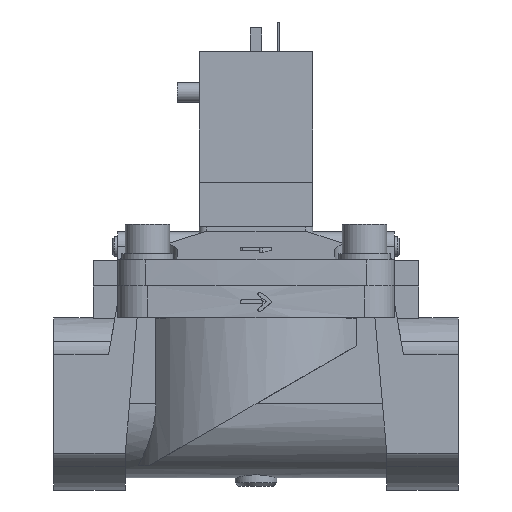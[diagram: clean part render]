
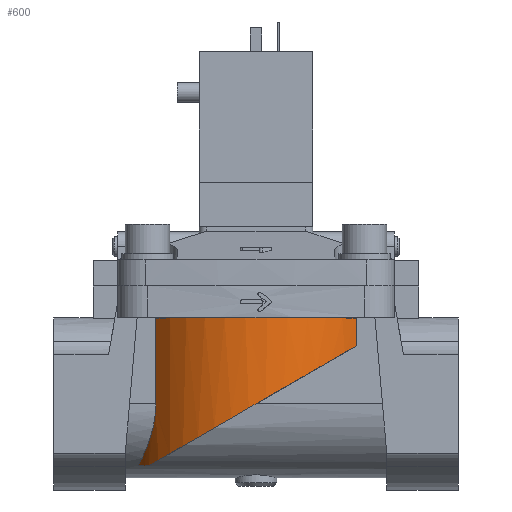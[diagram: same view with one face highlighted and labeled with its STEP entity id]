
A CAD part, top view. The second image highlights one B-rep face of the part: STEP entity #600.
In plain terms, the highlighted cylindrical face has radius 50.5 mm (diameter 101 mm), a partial arc.
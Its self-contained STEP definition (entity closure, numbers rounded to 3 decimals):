
#600 = ADVANCED_FACE( '', ( #1296 ), #1297, .T. );
#1296 = FACE_OUTER_BOUND( '', #2094, .T. );
#1297 = CYLINDRICAL_SURFACE( '', #2095, 50.5 );
#2094 = EDGE_LOOP( '', ( #3682, #3683, #3684, #3685, #3686, #3687 ) );
#2095 = AXIS2_PLACEMENT_3D( '', #3688, #3689, #3690 );
#3682 = ORIENTED_EDGE( '', *, *, #5168, .T. );
#3683 = ORIENTED_EDGE( '', *, *, #5023, .F. );
#3684 = ORIENTED_EDGE( '', *, *, #5309, .F. );
#3685 = ORIENTED_EDGE( '', *, *, #5014, .F. );
#3686 = ORIENTED_EDGE( '', *, *, #4792, .F. );
#3687 = ORIENTED_EDGE( '', *, *, #5310, .F. );
#3688 = CARTESIAN_POINT( '', ( 0., 35., 0. ) );
#3689 = DIRECTION( '', ( 0., 1., 0. ) );
#3690 = DIRECTION( '', ( 0., 0., -1. ) );
#4792 = EDGE_CURVE( '', #5755, #5750, #5757, .T. );
#5014 = EDGE_CURVE( '', #5750, #6120, #6121, .T. );
#5023 = EDGE_CURVE( '', #6133, #6135, #6136, .F. );
#5168 = EDGE_CURVE( '', #6356, #6135, #6357, .T. );
#5309 = EDGE_CURVE( '', #6120, #6133, #6554, .T. );
#5310 = EDGE_CURVE( '', #6356, #5755, #6555, .T. );
#5750 = VERTEX_POINT( '', #7120 );
#5755 = VERTEX_POINT( '', #7126 );
#5757 = ELLIPSE( '', #7129, 58.312, 50.5 );
#6120 = VERTEX_POINT( '', #7653 );
#6121 = CIRCLE( '', #7654, 50.5 );
#6133 = VERTEX_POINT( '', #7676 );
#6135 = VERTEX_POINT( '', #7679 );
#6136 = LINE( '', #7680, #7681 );
#6356 = VERTEX_POINT( '', #7978 );
#6357 = CIRCLE( '', #7979, 50.5 );
#6554 = B_SPLINE_CURVE_WITH_KNOTS( '', 3, ( #8256, #8257, #8258, #8259, #8260, #8261, #8262, #8263, #8264, #8265, #8266, #8267, #8268, #8269, #8270, #8271, #8272, #8273, #8274, #8275, #8276, #8277, #8278, #8279 ), .UNSPECIFIED., .F., .F., ( 4, 2, 2, 2, 2, 2, 2, 2, 2, 2, 2, 4 ), ( 0.066, 0.068, 0.07, 0.073, 0.075, 0.077, 0.081, 0.085, 0.087, 0.089, 0.092, 0.096 ), .UNSPECIFIED. );
#6555 = LINE( '', #8280, #8281 );
#7120 = CARTESIAN_POINT( '', ( -43.301, -25., 25.986 ) );
#7126 = CARTESIAN_POINT( '', ( 40.623, 23.454, 30. ) );
#7129 = AXIS2_PLACEMENT_3D( '', #8897, #8898, #8899 );
#7653 = CARTESIAN_POINT( '', ( -47.7, -25., 16.583 ) );
#7654 = AXIS2_PLACEMENT_3D( '', #9193, #9194, #9195 );
#7676 = CARTESIAN_POINT( '', ( -40.623, 0., 30. ) );
#7679 = CARTESIAN_POINT( '', ( -40.623, 34.773, 30. ) );
#7680 = CARTESIAN_POINT( '', ( -40.623, 35., 30. ) );
#7681 = VECTOR( '', #9203, 1000. );
#7978 = CARTESIAN_POINT( '', ( 40.623, 34.773, 30. ) );
#7979 = AXIS2_PLACEMENT_3D( '', #9395, #9396, #9397 );
#8256 = CARTESIAN_POINT( '', ( -47.7, -25., 16.583 ) );
#8257 = CARTESIAN_POINT( '', ( -47.522, -24.661, 17.094 ) );
#8258 = CARTESIAN_POINT( '', ( -47.338, -24.305, 17.596 ) );
#8259 = CARTESIAN_POINT( '', ( -46.964, -23.569, 18.571 ) );
#8260 = CARTESIAN_POINT( '', ( -46.774, -23.188, 19.045 ) );
#8261 = CARTESIAN_POINT( '', ( -46.196, -22.007, 20.424 ) );
#8262 = CARTESIAN_POINT( '', ( -45.802, -21.17, 21.29 ) );
#8263 = CARTESIAN_POINT( '', ( -45.207, -19.838, 22.512 ) );
#8264 = CARTESIAN_POINT( '', ( -45.008, -19.381, 22.907 ) );
#8265 = CARTESIAN_POINT( '', ( -44.611, -18.441, 23.67 ) );
#8266 = CARTESIAN_POINT( '', ( -44.413, -17.957, 24.04 ) );
#8267 = CARTESIAN_POINT( '', ( -43.826, -16.471, 25.104 ) );
#8268 = CARTESIAN_POINT( '', ( -43.448, -15.444, 25.748 ) );
#8269 = CARTESIAN_POINT( '', ( -42.738, -13.316, 26.91 ) );
#8270 = CARTESIAN_POINT( '', ( -42.406, -12.215, 27.428 ) );
#8271 = CARTESIAN_POINT( '', ( -41.955, -10.501, 28.109 ) );
#8272 = CARTESIAN_POINT( '', ( -41.813, -9.919, 28.32 ) );
#8273 = CARTESIAN_POINT( '', ( -41.548, -8.734, 28.707 ) );
#8274 = CARTESIAN_POINT( '', ( -41.424, -8.127, 28.885 ) );
#8275 = CARTESIAN_POINT( '', ( -41.091, -6.297, 29.359 ) );
#8276 = CARTESIAN_POINT( '', ( -40.918, -5.06, 29.597 ) );
#8277 = CARTESIAN_POINT( '', ( -40.684, -2.555, 29.918 ) );
#8278 = CARTESIAN_POINT( '', ( -40.623, -1.286, 30. ) );
#8279 = CARTESIAN_POINT( '', ( -40.623, 0., 30. ) );
#8280 = CARTESIAN_POINT( '', ( 40.623, 35., 30. ) );
#8281 = VECTOR( '', #9556, 1000. );
#8897 = CARTESIAN_POINT( '', ( 0., 0., 0. ) );
#8898 = DIRECTION( '', ( 0.5, -0.866, 0. ) );
#8899 = DIRECTION( '', ( -0.866, -0.5, 0. ) );
#9193 = CARTESIAN_POINT( '', ( 0., -25., 0. ) );
#9194 = DIRECTION( '', ( 0., -1., 0. ) );
#9195 = DIRECTION( '', ( 0., 0., -1. ) );
#9203 = DIRECTION( '', ( 0., -1., 0. ) );
#9395 = CARTESIAN_POINT( '', ( 0., 34.773, 0. ) );
#9396 = DIRECTION( '', ( 0., -1., 0. ) );
#9397 = DIRECTION( '', ( 0., 0., -1. ) );
#9556 = DIRECTION( '', ( 0., -1., 0. ) );
